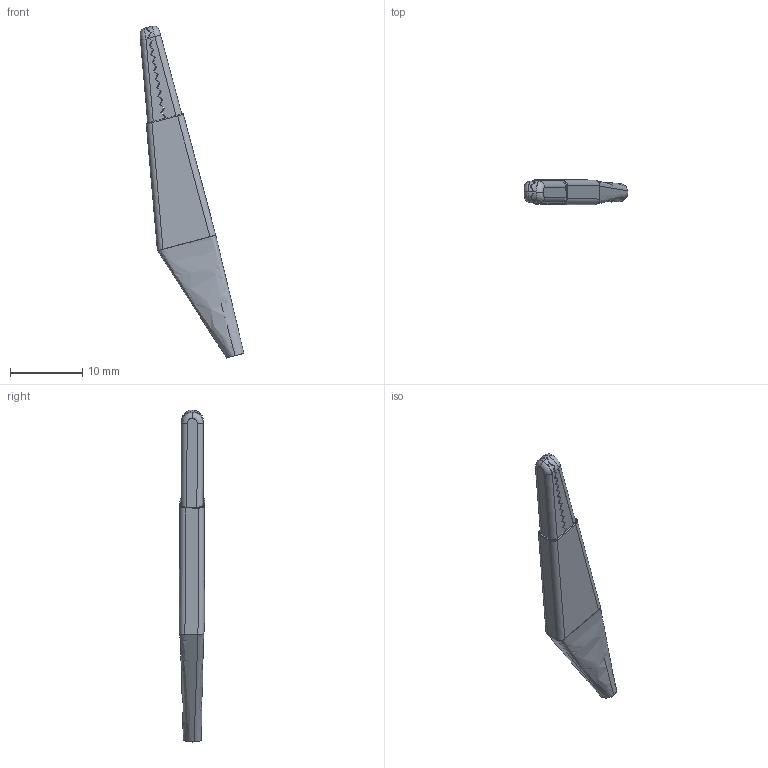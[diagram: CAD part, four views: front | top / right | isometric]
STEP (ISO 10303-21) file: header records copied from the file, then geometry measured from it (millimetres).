
FILE_DESCRIPTION (( 'STEP AP214' ), '1' );
FILE_NAME ('Alligator Clip Black Sleeve.STEP', '2024-09-20T18:08:12', ( '' ), ( '' ), 'SwSTEP 2.0', 'SolidWorks 2022', '' );
FILE_SCHEMA (( 'AUTOMOTIVE_DESIGN' ));
Length unit declared in the file: millimetre
Products named in the file (1): Alligator Clip Black Sleeve
Bounding box: 14.38 x 3.52 x 45.93 mm (x, y, z)
Volume: 296.4 mm3; surface area: 2115.9 mm2
Topology: 4 solids, 4 shells, 268 faces, 702 edges, 440 vertices
Faces by surface type: plane 184, bspline 40, cylinder 38, torus 6
Entity records: 11815 total; most frequent: CARTESIAN_POINT 5245, ORIENTED_EDGE 1404, DIRECTION 1109, EDGE_CURVE 702, VECTOR 527, LINE 527, VERTEX_POINT 440, AXIS2_PLACEMENT_3D 291
